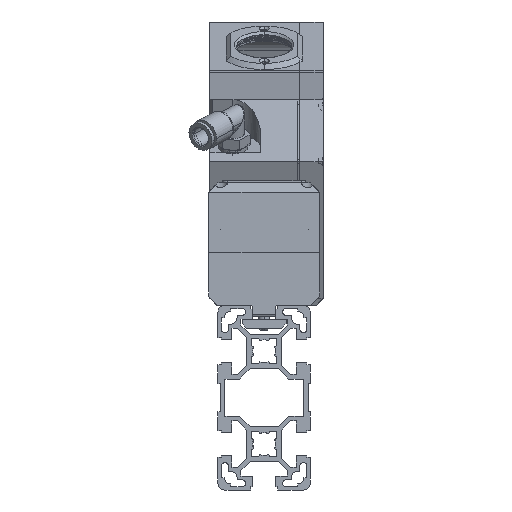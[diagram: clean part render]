
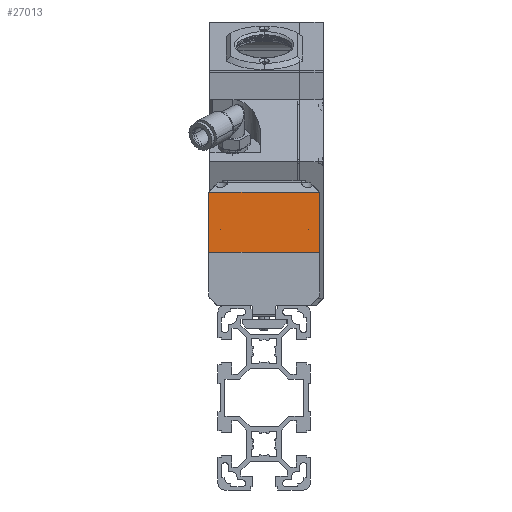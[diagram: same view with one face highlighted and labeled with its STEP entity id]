
A CAD part, front view. The second image highlights one B-rep face of the part: STEP entity #27013.
In plain terms, the highlighted planar face has unit normal (0, -1, 0).
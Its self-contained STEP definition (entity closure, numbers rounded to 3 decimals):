
#4512 = CARTESIAN_POINT ( 'NONE',  ( -48., 0., 0. ) ) ;
#4520 = CARTESIAN_POINT ( 'NONE',  ( 0., 0., 26. ) ) ;
#4521 = CARTESIAN_POINT ( 'NONE',  ( 0., 0., 0. ) ) ;
#4524 = CARTESIAN_POINT ( 'NONE',  ( -48., 0., 26. ) ) ;
#6467 = LINE ( 'NONE', #15511, #6472 ) ;
#6472 = VECTOR ( 'NONE', #15516, 1000. ) ;
#6479 = LINE ( 'NONE', #15524, #6482 ) ;
#6482 = VECTOR ( 'NONE', #15525, 1000. ) ;
#6485 = LINE ( 'NONE', #15529, #6488 ) ;
#6487 = LINE ( 'NONE', #15531, #6490 ) ;
#6488 = VECTOR ( 'NONE', #15530, 1000. ) ;
#6490 = VECTOR ( 'NONE', #15532, 1000. ) ;
#7424 = CARTESIAN_POINT ( 'NONE',  ( 0., 0., 30. ) ) ;
#7438 = PLANE ( 'NONE',  #11310 ) ;
#7442 = DIRECTION ( 'NONE',  ( 0., 1., 0. ) ) ;
#7444 = DIRECTION ( 'NONE',  ( -1., 0., 0. ) ) ;
#11310 = AXIS2_PLACEMENT_3D ( 'NONE', #7424, #7442, #7444 ) ;
#13989 = ORIENTED_EDGE ( 'NONE', *, *, #32102, .F. ) ;
#13990 = ORIENTED_EDGE ( 'NONE', *, *, #32110, .T. ) ;
#13991 = ORIENTED_EDGE ( 'NONE', *, *, #32107, .T. ) ;
#13992 = ORIENTED_EDGE ( 'NONE', *, *, #32111, .T. ) ;
#15511 = CARTESIAN_POINT ( 'NONE',  ( 0., 0., 30. ) ) ;
#15516 = DIRECTION ( 'NONE',  ( 0., 0., -1. ) ) ;
#15524 = CARTESIAN_POINT ( 'NONE',  ( -48., 0., 30. ) ) ;
#15525 = DIRECTION ( 'NONE',  ( 0., 0., -1. ) ) ;
#15529 = CARTESIAN_POINT ( 'NONE',  ( -48., 0., 26. ) ) ;
#15530 = DIRECTION ( 'NONE',  ( -1., 0., 0. ) ) ;
#15531 = CARTESIAN_POINT ( 'NONE',  ( 0., 0., 0. ) ) ;
#15532 = DIRECTION ( 'NONE',  ( 1., 0., 0. ) ) ;
#17392 = FACE_OUTER_BOUND ( 'NONE', #32518, .T. ) ;
#27013 = ADVANCED_FACE ( 'NONE', ( #17392 ), #7438, .F. ) ;
#30641 = VERTEX_POINT ( 'NONE', #4512 ) ;
#30648 = VERTEX_POINT ( 'NONE', #4520 ) ;
#30649 = VERTEX_POINT ( 'NONE', #4521 ) ;
#30652 = VERTEX_POINT ( 'NONE', #4524 ) ;
#32102 = EDGE_CURVE ( 'NONE', #30648, #30649, #6467, .T. ) ;
#32107 = EDGE_CURVE ( 'NONE', #30652, #30641, #6479, .T. ) ;
#32110 = EDGE_CURVE ( 'NONE', #30648, #30652, #6485, .T. ) ;
#32111 = EDGE_CURVE ( 'NONE', #30641, #30649, #6487, .T. ) ;
#32518 = EDGE_LOOP ( 'NONE', ( #13989, #13990, #13991, #13992 ) ) ;
